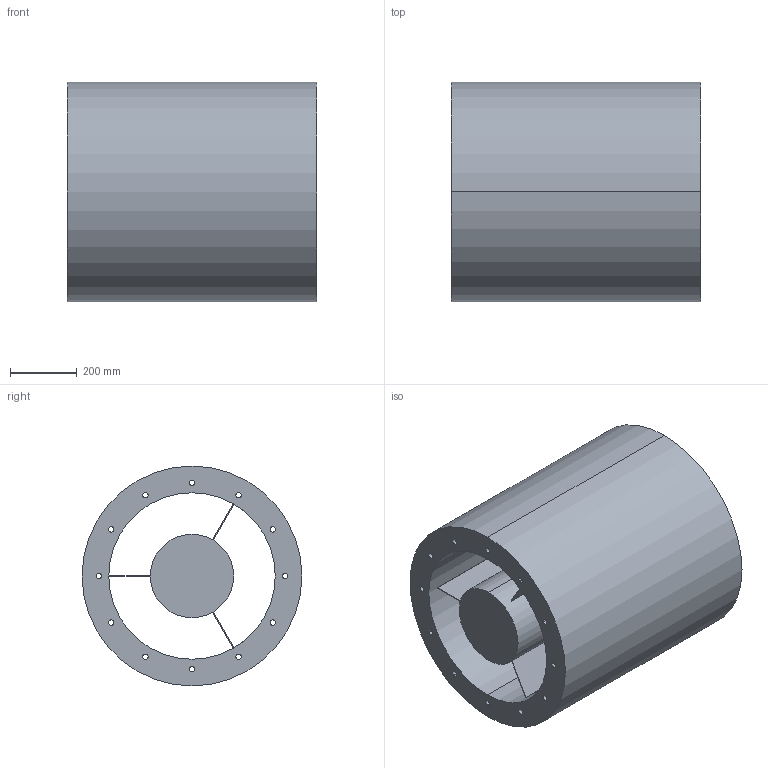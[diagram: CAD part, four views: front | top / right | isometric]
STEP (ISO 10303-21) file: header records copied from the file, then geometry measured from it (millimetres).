
FILE_DESCRIPTION(('STEP AP214'),'1');
FILE_NAME('accessory_5211814000.stp','2017-10-09T11:38:28',('TraceParts'),('TraceParts S.A.'),'Spatial InterOp 3D',' ',' ');
FILE_SCHEMA(('automotive_design'));
Length unit declared in the file: millimetre
Products named in the file (1): accessory_5211814000
Bounding box: 750 x 660 x 660 mm (x, y, z)
Volume: 140738066.6 mm3; surface area: 4486434.3 mm2
Topology: 1 solids, 1 shells, 48 faces, 131 edges, 87 vertices
Faces by surface type: cylinder 30, plane 16, torus 2
Entity records: 2024 total; most frequent: DIRECTION 306, CARTESIAN_POINT 267, ORIENTED_EDGE 262, EDGE_CURVE 131, AXIS2_PLACEMENT_3D 126, VERTEX_POINT 87, EDGE_LOOP 80, CIRCLE 77
